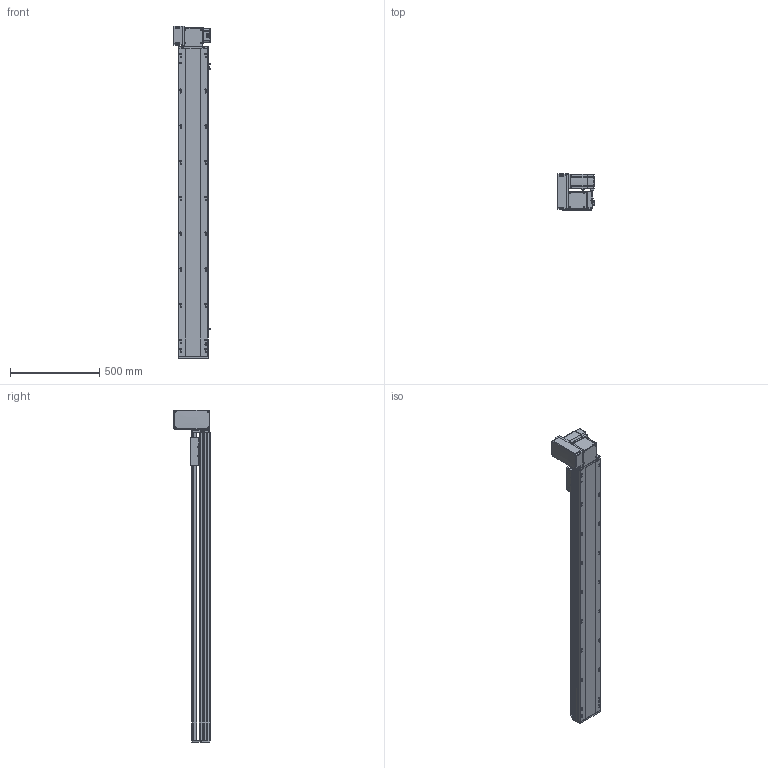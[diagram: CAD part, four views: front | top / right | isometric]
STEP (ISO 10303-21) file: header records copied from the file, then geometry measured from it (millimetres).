
FILE_DESCRIPTION (( 'STEP AP214' ), '1' );
FILE_NAME ('RTB17S-XX-1450-LW-M75-C4.STEP', '2025-12-12T01:07:01', ( '' ), ( '' ), 'SwSTEP 2.0', 'SolidWorks 2018', '' );
FILE_SCHEMA (( 'AUTOMOTIVE_DESIGN' ));
Length unit declared in the file: millimetre
Products named in the file (15): RTB22S-GY-005P^RTB17S-LW-々湍釱蚾饜-750W_RTB17S-XX-XX-LW-M75-C4; RTB17S-L-001-耜醱啣^RTB17S-XX-XX-LW-M75-C4; RTB17S-L-004-賑釱^RTB17S-賑釱_RTB17S-XX-XX-LW-M75-C4; RTB17S-L-007奻裔^RTB17S-XX-XX-LW-M75-C4; RTB17S-LW-々湍釱蚾饜-750W^RTB17S-XX-XX-LW-M75-C4; RTB22S-GY-008-M75--萇儂啣^RTB17S-LW-々湍釱蚾饜-750W_RTB17S-XX-XX-LW-M75-C4; RTB22S-GY-017P^RTB17S-LW-々湍釱蚾饜-750W_RTB17S-XX-XX-LW-M75-C4; 750W萇儂^RTB17S-XX-XX-LW-M75-C4; RTB17S-賑釱^RTB17S-XX-XX-LW-M75-C4; RTB17-R-011菁釱^RTB17S-XX-XX-LW-M75-C4; RTB17S-L-014-T20-P75--々湍釱^RTB17S-LW-々湍釱蚾饜-750W_RTB17S-XX-XX-LW-M75-C4; EE672^RTB17S-XX-XX-LW-M75-C4; RTH13-BL-012覜茼え俋离^RTB17S-賑釱_RTB17S-XX-XX-LW-M75-C4; RTB22S-GY-018P^RTB17S-LW-々湍釱蚾饜-750W_RTB17S-XX-XX-LW-M75-C4; RTB17S-XX-1450-LW-M75-C4
Assembly tree (17 placements, depth 3):
  RTB17S-XX-1450-LW-M75-C4
    RTB17-R-011菁釱^RTB17S-XX-XX-LW-M75-C4
    EE672^RTB17S-XX-XX-LW-M75-C4  x3
    RTB17S-L-001-耜醱啣^RTB17S-XX-XX-LW-M75-C4
    RTB17S-賑釱^RTB17S-XX-XX-LW-M75-C4
      RTB17S-L-004-賑釱^RTB17S-賑釱_RTB17S-XX-XX-LW-M75-C4
      RTH13-BL-012覜茼え俋离^RTB17S-賑釱_RTB17S-XX-XX-LW-M75-C4
    RTB17S-L-007奻裔^RTB17S-XX-XX-LW-M75-C4
    750W萇儂^RTB17S-XX-XX-LW-M75-C4
    RTB17S-LW-々湍釱蚾饜-750W^RTB17S-XX-XX-LW-M75-C4
      RTB17S-L-014-T20-P75--々湍釱^RTB17S-LW-々湍釱蚾饜-750W_RTB17S-XX-XX-LW-M75-C4
      RTB22S-GY-005P^RTB17S-LW-々湍釱蚾饜-750W_RTB17S-XX-XX-LW-M75-C4
      RTB22S-GY-017P^RTB17S-LW-々湍釱蚾饜-750W_RTB17S-XX-XX-LW-M75-C4  x2
      RTB22S-GY-008-M75--萇儂啣^RTB17S-LW-々湍釱蚾饜-750W_RTB17S-XX-XX-LW-M75-C4
      RTB22S-GY-018P^RTB17S-LW-々湍釱蚾饜-750W_RTB17S-XX-XX-LW-M75-C4
Bounding box: 210.4 x 201.5 x 1857.5 mm (x, y, z)
Volume: 15008918.3 mm3; surface area: 2625465.8 mm2
Topology: 17 solids, 17 shells, 2137 faces, 5944 edges, 3842 vertices
Faces by surface type: plane 976, cylinder 745, bspline 294, cone 110, sphere 8, torus 4
Entity records: 60406 total; most frequent: CARTESIAN_POINT 17808, ORIENTED_EDGE 8732, DIRECTION 8132, EDGE_CURVE 4366, AXIS2_PLACEMENT_3D 2862, VERTEX_POINT 2846, LINE 2408, VECTOR 2408
